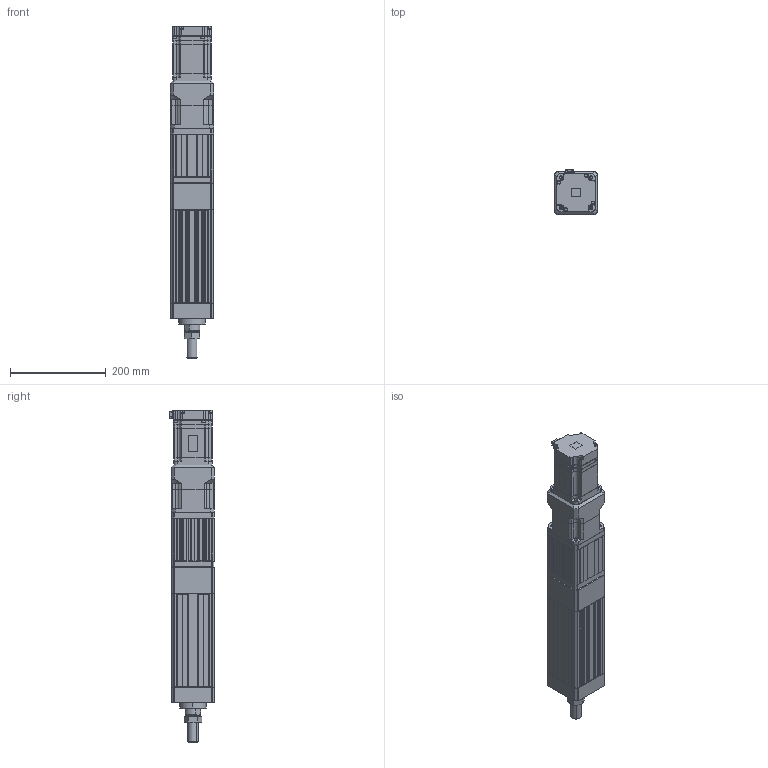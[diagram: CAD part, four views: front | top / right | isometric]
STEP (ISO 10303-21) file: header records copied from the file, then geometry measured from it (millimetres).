
FILE_DESCRIPTION (( 'STEP AP203' ), '1' );
FILE_NAME ('ANS090H-050-05(10)(25)-W75G05-M.STEP', '2019-03-16T06:44:50', ( 'user' ), ( '' ), 'SwSTEP 2.0', 'SolidWorks 2013', '' );
FILE_SCHEMA (( 'CONFIG_CONTROL_DESIGN' ));
Length unit declared in the file: millimetre
Products named in the file (6): ANS090H S050 VER2; ANS090 ROD ST050-M; AB090-005-S1-P2[YASKAWA SGMJV08A]; SGMJV_08A_A21; HEXNUT-M22X1.5P; ANS090H-050-05(10)(25)-W75G05-M
Assembly tree (5 placements, depth 2):
  ANS090H-050-05(10)(25)-W75G05-M
    ANS090H S050 VER2
    ANS090 ROD ST050-M
    AB090-005-S1-P2[YASKAWA SGMJV08A]
    SGMJV_08A_A21
    HEXNUT-M22X1.5P
Bounding box: 90 x 93.8 x 694.1 mm (x, y, z)
Volume: 2523649 mm3; surface area: 446177.6 mm2
Topology: 4 solids, 11 shells, 1615 faces, 4344 edges, 2802 vertices
Faces by surface type: plane 986, cylinder 481, cone 136, bspline 12
Entity records: 51143 total; most frequent: CARTESIAN_POINT 9819, ORIENTED_EDGE 8552, DIRECTION 8387, EDGE_CURVE 4320, LINE 3095, VECTOR 3095, VERTEX_POINT 2802, AXIS2_PLACEMENT_3D 2646
